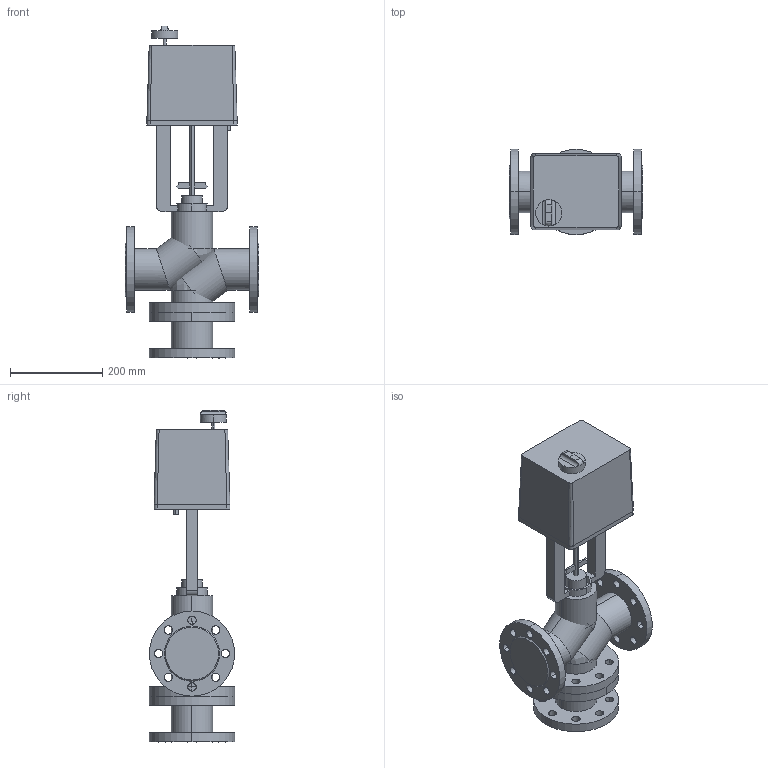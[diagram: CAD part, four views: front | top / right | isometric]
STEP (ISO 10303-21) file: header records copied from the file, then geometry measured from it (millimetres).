
FILE_DESCRIPTION(/* description */ (''),/* implementation_level */ '2;1');
FILE_NAME(/* name */ 'ТРК DN65 PN 2.5 МПа LEA 2500',/* time_stamp */ '2026-07-14T23:10:50+03:00',/* author */ (''),/* organization */ (''),/* preprocessor_version */ 'ST-DEVELOPER v20',/* originating_system */ '',/* authorisation */ '');
FILE_SCHEMA (('AP242_MANAGED_MODEL_BASED_3D_ENGINEERING_MIM_LF { 1 0 10303 442 1 1 4 }'));
Length unit declared in the file: millimetre
Products named in the file (17): TopLevelAssembly; Выдавливание; Модификатор; Модификатор_1; Выдавливание_
1; Выдавливание_
2; Вращение; Выдавливание_
3; Выдавливание_
4; Выдавливание_
5; Выдавливание_
6; Выдавливание_
7; 1600; Переход; Объемная геометрия 
присоединена; Полый Выдавливание; Объемная геометрия 
присоединена_1
Assembly tree (16 placements, depth 2):
  TopLevelAssembly
    Выдавливание
    Модификатор
    Модификатор_1
    Выдавливание_
1
    Выдавливание_
2
    Вращение
    Выдавливание_
3
    Выдавливание_
4
    Выдавливание_
5
    Выдавливание_
6
    Выдавливание_
7
    1600
    Переход
    Объемная геометрия 
присоединена
    Полый Выдавливание
    Объемная геометрия 
присоединена_1
Bounding box: 290 x 185 x 721 mm (x, y, z)
Volume: 11940569.1 mm3; surface area: 991187.4 mm2
Topology: 21 solids, 21 shells, 234 faces, 570 edges, 374 vertices
Faces by surface type: cylinder 138, plane 82, bspline 10, cone 4
Entity records: 7932 total; most frequent: CARTESIAN_POINT 1499, DIRECTION 1370, ORIENTED_EDGE 1124, AXIS2_PLACEMENT_3D 563, EDGE_CURVE 562, VERTEX_POINT 374, EDGE_LOOP 328, CIRCLE 298
